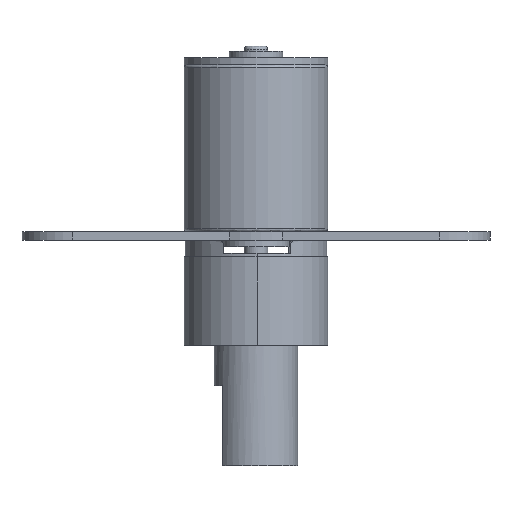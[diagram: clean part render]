
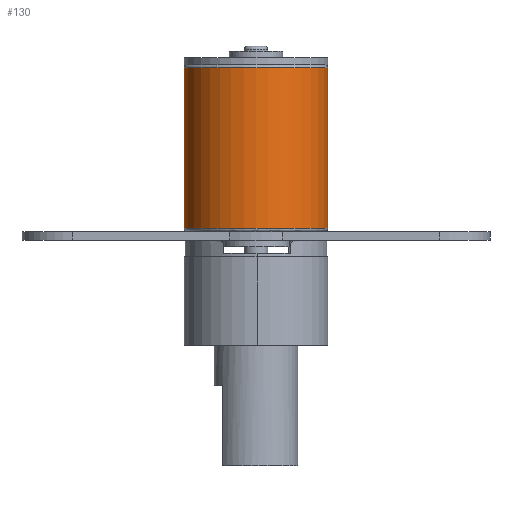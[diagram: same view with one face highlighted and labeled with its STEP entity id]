
A CAD part, front view. The second image highlights one B-rep face of the part: STEP entity #130.
In plain terms, the highlighted cylindrical face has radius 2.15 mm (diameter 4.3 mm), a partial arc.
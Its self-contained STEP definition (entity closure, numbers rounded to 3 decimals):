
#130 = ADVANCED_FACE ( 'NONE', ( #4650 ), #4540, .T. ) ;
#151 = EDGE_CURVE ( 'NONE', #1139, #3763, #2623, .T. ) ;
#283 = EDGE_CURVE ( 'NONE', #3763, #1552, #4409, .T. ) ;
#342 = VERTEX_POINT ( 'NONE', #4641 ) ;
#584 = DIRECTION ( 'NONE',  ( 0., 0., -1. ) ) ;
#815 = DIRECTION ( 'NONE',  ( -1., 0., 0. ) ) ;
#944 = DIRECTION ( 'NONE',  ( 0., 0., 1. ) ) ;
#1100 = CARTESIAN_POINT ( 'NONE',  ( 0.123, -2.55, 9.5 ) ) ;
#1139 = VERTEX_POINT ( 'NONE', #3122 ) ;
#1233 = CIRCLE ( 'NONE', #4350, 2.15 ) ;
#1358 = CARTESIAN_POINT ( 'NONE',  ( -2.027, -2.55, 11.9 ) ) ;
#1552 = VERTEX_POINT ( 'NONE', #3468 ) ;
#1715 = VECTOR ( 'NONE', #944, 1000. ) ;
#1937 = CARTESIAN_POINT ( 'NONE',  ( -2.027, -2.55, 11.9 ) ) ;
#2263 = EDGE_CURVE ( 'NONE', #342, #1139, #1233, .T. ) ;
#2623 = LINE ( 'NONE', #2877, #1715 ) ;
#2715 = CARTESIAN_POINT ( 'NONE',  ( -4.177, -2.55, 11.9 ) ) ;
#2811 = ORIENTED_EDGE ( 'NONE', *, *, #283, .F. ) ;
#2877 = CARTESIAN_POINT ( 'NONE',  ( -4.177, -2.55, 9.5 ) ) ;
#2903 = CARTESIAN_POINT ( 'NONE',  ( -2.027, -2.55, 7.1 ) ) ;
#2960 = AXIS2_PLACEMENT_3D ( 'NONE', #1358, #4499, #3960 ) ;
#2989 = EDGE_CURVE ( 'NONE', #1552, #342, #3304, .T. ) ;
#3014 = DIRECTION ( 'NONE',  ( 0., 0., -1. ) ) ;
#3100 = DIRECTION ( 'NONE',  ( 0., 0., 1. ) ) ;
#3122 = CARTESIAN_POINT ( 'NONE',  ( -4.177, -2.55, 7.1 ) ) ;
#3264 = DIRECTION ( 'NONE',  ( -1., 0., 0. ) ) ;
#3304 = LINE ( 'NONE', #1100, #4336 ) ;
#3468 = CARTESIAN_POINT ( 'NONE',  ( 0.123, -2.55, 11.9 ) ) ;
#3747 = ORIENTED_EDGE ( 'NONE', *, *, #151, .F. ) ;
#3748 = EDGE_LOOP ( 'NONE', ( #2811, #3747, #4207, #3816 ) ) ;
#3763 = VERTEX_POINT ( 'NONE', #2715 ) ;
#3816 = ORIENTED_EDGE ( 'NONE', *, *, #2989, .F. ) ;
#3960 = DIRECTION ( 'NONE',  ( 0., 1., 0. ) ) ;
#4207 = ORIENTED_EDGE ( 'NONE', *, *, #2263, .F. ) ;
#4336 = VECTOR ( 'NONE', #3014, 1000. ) ;
#4350 = AXIS2_PLACEMENT_3D ( 'NONE', #2903, #584, #3264 ) ;
#4409 = CIRCLE ( 'NONE', #4746, 2.15 ) ;
#4499 = DIRECTION ( 'NONE',  ( 0., 0., -1. ) ) ;
#4540 = CYLINDRICAL_SURFACE ( 'NONE', #2960, 2.15 ) ;
#4641 = CARTESIAN_POINT ( 'NONE',  ( 0.123, -2.55, 7.1 ) ) ;
#4650 = FACE_OUTER_BOUND ( 'NONE', #3748, .T. ) ;
#4746 = AXIS2_PLACEMENT_3D ( 'NONE', #1937, #3100, #815 ) ;
